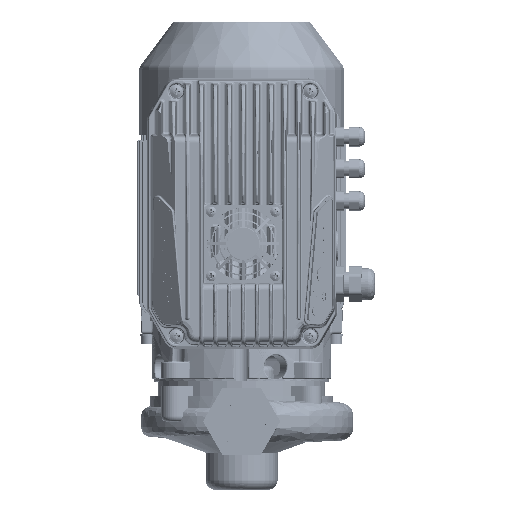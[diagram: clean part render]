
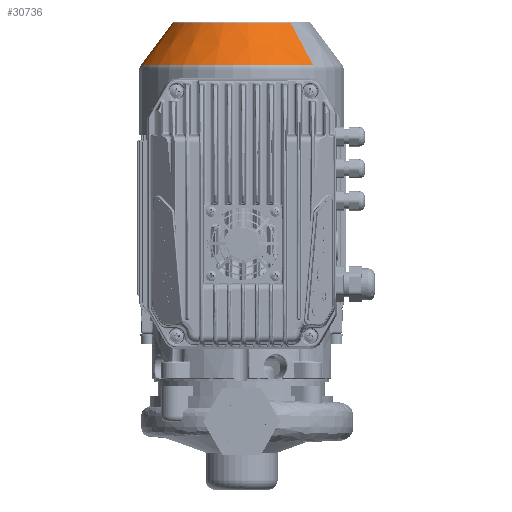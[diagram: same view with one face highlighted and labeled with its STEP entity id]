
A CAD part, top view. The second image highlights one B-rep face of the part: STEP entity #30736.
In plain terms, the highlighted conical face has half-angle 37 degrees and reference radius 53.876 mm.
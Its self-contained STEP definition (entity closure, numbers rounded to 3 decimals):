
#30736=ADVANCED_FACE('NONE',(#102724),#102725,.T.);
#102724=FACE_OUTER_BOUND('',#158945,.T.);
#102725=CONICAL_SURFACE('',#158946,53.876,0.646);
#158945=EDGE_LOOP('',(#194629,#194630,#194631,#194632));
#158946=AXIS2_PLACEMENT_3D('',#194633,#194634,#194635);
#194629=ORIENTED_EDGE('',*,*,#224060,.T.);
#194630=ORIENTED_EDGE('',*,*,#224138,.T.);
#194631=ORIENTED_EDGE('',*,*,#224061,.T.);
#194632=ORIENTED_EDGE('',*,*,#224164,.F.);
#194633=CARTESIAN_POINT('',(0.0,87.403,0.0));
#194634=DIRECTION('',(-0.0,-1.0,-0.0));
#194635=DIRECTION('',(0.0,0.0,-1.0));
#224060=EDGE_CURVE('',#316340,#316343,#316344,.T.);
#224061=EDGE_CURVE('',#316345,#316338,#316346,.T.);
#224138=EDGE_CURVE('NONE',#316343,#316345,#316477,.T.);
#224164=EDGE_CURVE('NONE',#316340,#316338,#316509,.T.);
#316338=VERTEX_POINT('',#355581);
#316340=VERTEX_POINT('NONE',#355583);
#316343=VERTEX_POINT('NONE',#355586);
#316344=LINE('',#355587,#355588);
#316345=VERTEX_POINT('',#355589);
#316346=LINE('',#355590,#355591);
#316477=CIRCLE('',#356080,78.592);
#316509=CIRCLE('',#356298,53.876);
#355581=CARTESIAN_POINT('',(0.,87.403,53.876));
#355583=CARTESIAN_POINT('',(0.,87.403,-53.876));
#355586=CARTESIAN_POINT('',(0.0,54.603,-78.592));
#355587=CARTESIAN_POINT('',(0.,87.403,-53.876));
#355588=VECTOR('',#369838,1.0);
#355589=CARTESIAN_POINT('',(0.,54.603,78.592));
#355590=CARTESIAN_POINT('',(0.,87.403,53.876));
#355591=VECTOR('',#369839,1.0);
#356080=AXIS2_PLACEMENT_3D('',#369966,#369967,#369968);
#356298=AXIS2_PLACEMENT_3D('',#370026,#370027,#370028);
#369838=DIRECTION('',(0.,-0.799,-0.602));
#369839=DIRECTION('',(0.,0.799,-0.602));
#369966=CARTESIAN_POINT('',(0.0,54.603,0.0));
#369967=DIRECTION('',(0.0,1.0,0.0));
#369968=DIRECTION('',(0.0,0.0,1.0));
#370026=CARTESIAN_POINT('',(0.0,87.403,0.0));
#370027=DIRECTION('',(0.0,1.0,0.0));
#370028=DIRECTION('',(0.0,0.0,1.0));
